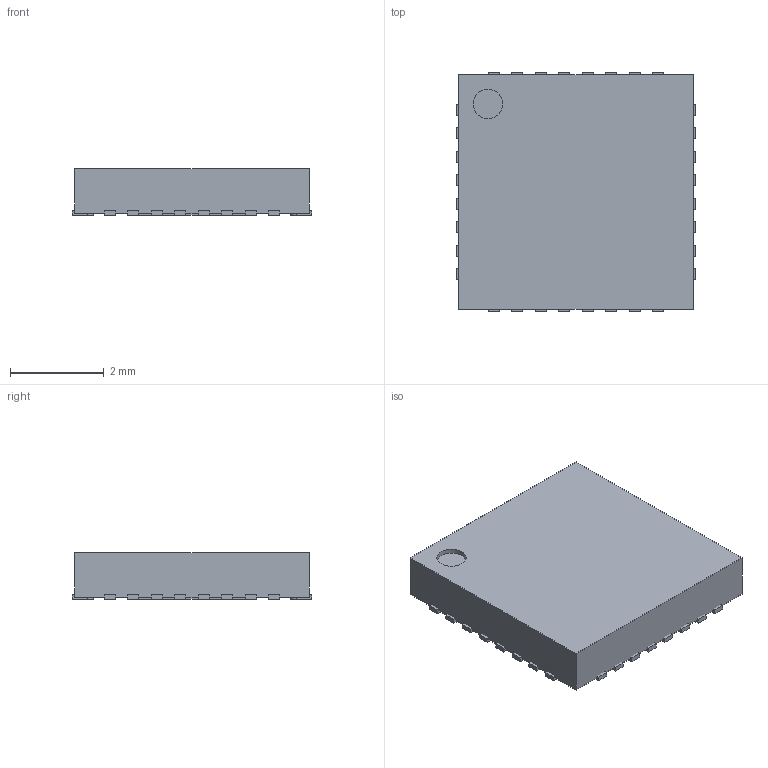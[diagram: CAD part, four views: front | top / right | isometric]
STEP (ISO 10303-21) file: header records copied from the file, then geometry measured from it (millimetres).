
FILE_DESCRIPTION(('FreeCAD Model'),'2;1');
FILE_NAME('/var/www/3D/0T/165454.4.1.stp','2020-12-28T07:18:02',( 'Author'),(''),'Open CASCADE STEP processor 6.9','FreeCAD','Unknown' );
FILE_SCHEMA(('AUTOMOTIVE_DESIGN { 1 0 10303 214 1 1 1 1 }'));
Length unit declared in the file: millimetre
Products named in the file (5): ASSEMBLY; Body; ThermalPin; PinsArrayLR; PinsArrayTB
Assembly tree (4 placements, depth 2):
  ASSEMBLY
    Body
    ThermalPin
    PinsArrayLR
    PinsArrayTB
Bounding box: 5.1 x 5.1 x 1 mm (x, y, z)
Volume: 24.8 mm3; surface area: 95.5 mm2
Topology: 34 solids, 34 shells, 206 faces, 411 edges, 274 vertices
Faces by surface type: plane 173, cylinder 33
Full cylindrical faces by diameter (mm): 0.625 x1
Entity records: 11048 total; most frequent: CARTESIAN_POINT 1910, DIRECTION 1689, LINE 1101, VECTOR 1101, ORIENTED_EDGE 822, PCURVE 822, DEFINITIONAL_REPRESENTATION 822, EDGE_CURVE 411
